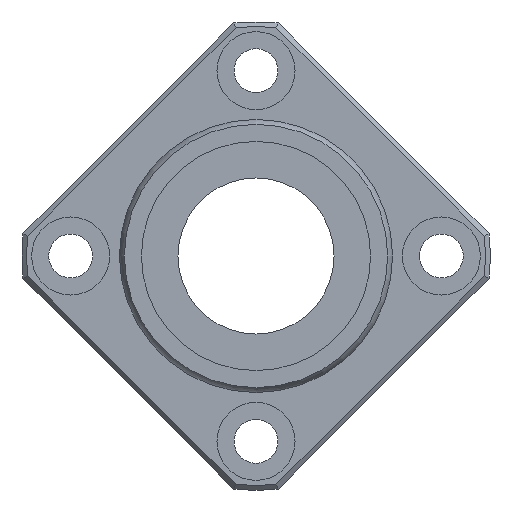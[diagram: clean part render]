
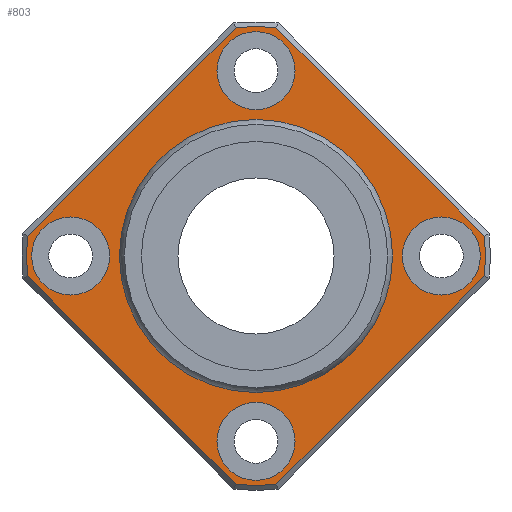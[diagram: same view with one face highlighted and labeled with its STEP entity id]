
A CAD part, left-side view. The second image highlights one B-rep face of the part: STEP entity #803.
In plain terms, the highlighted planar face has unit normal (-1, 0, 0).
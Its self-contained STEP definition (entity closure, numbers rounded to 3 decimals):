
#498=CARTESIAN_POINT('',(36.5,-2.045,-23.411));
#499=VERTEX_POINT('',#498);
#507=CARTESIAN_POINT('',(36.5,2.045,-23.411));
#508=VERTEX_POINT('',#507);
#509=CARTESIAN_POINT('',(36.5,0.0,0.0));
#510=DIRECTION('',(1.0,0.0,0.0));
#511=DIRECTION('',(0.0,0.0,-1.0));
#512=AXIS2_PLACEMENT_3D('',#509,#510,#511);
#513=CIRCLE('',#512,23.5);
#514=EDGE_CURVE('',#499,#508,#513,.T.);
#540=CARTESIAN_POINT('',(36.5,23.411,-2.045));
#541=VERTEX_POINT('',#540);
#542=CARTESIAN_POINT('',(36.5,2.045,-23.411));
#543=DIRECTION('',(0.0,0.707,0.707));
#544=VECTOR('',#543,30.216);
#545=LINE('',#542,#544);
#546=EDGE_CURVE('',#508,#541,#545,.T.);
#573=CARTESIAN_POINT('',(36.5,23.411,2.045));
#574=VERTEX_POINT('',#573);
#575=CARTESIAN_POINT('',(36.5,0.0,0.0));
#576=DIRECTION('',(1.0,0.0,0.0));
#577=DIRECTION('',(0.0,0.0,1.0));
#578=AXIS2_PLACEMENT_3D('',#575,#576,#577);
#579=CIRCLE('',#578,23.5);
#580=EDGE_CURVE('',#541,#574,#579,.T.);
#604=CARTESIAN_POINT('',(36.5,2.045,23.411));
#605=VERTEX_POINT('',#604);
#606=CARTESIAN_POINT('',(36.5,23.411,2.045));
#607=DIRECTION('',(0.0,-0.707,0.707));
#608=VECTOR('',#607,30.216);
#609=LINE('',#606,#608);
#610=EDGE_CURVE('',#574,#605,#609,.T.);
#629=CARTESIAN_POINT('',(36.5,-2.045,23.411));
#630=VERTEX_POINT('',#629);
#631=CARTESIAN_POINT('',(36.5,0.0,0.0));
#632=DIRECTION('',(1.0,0.0,0.0));
#633=DIRECTION('',(0.0,0.0,1.0));
#634=AXIS2_PLACEMENT_3D('',#631,#632,#633);
#635=CIRCLE('',#634,23.5);
#636=EDGE_CURVE('',#605,#630,#635,.T.);
#655=CARTESIAN_POINT('',(36.5,-23.411,2.045));
#656=VERTEX_POINT('',#655);
#657=CARTESIAN_POINT('',(36.5,-2.045,23.411));
#658=DIRECTION('',(0.0,-0.707,-0.707));
#659=VECTOR('',#658,30.216);
#660=LINE('',#657,#659);
#661=EDGE_CURVE('',#630,#656,#660,.T.);
#680=CARTESIAN_POINT('',(36.5,-23.411,-2.045));
#681=VERTEX_POINT('',#680);
#682=CARTESIAN_POINT('',(36.5,0.0,0.0));
#683=DIRECTION('',(1.0,0.0,0.0));
#684=DIRECTION('',(0.0,0.0,1.0));
#685=AXIS2_PLACEMENT_3D('',#682,#683,#684);
#686=CIRCLE('',#685,23.5);
#687=EDGE_CURVE('',#656,#681,#686,.T.);
#706=CARTESIAN_POINT('',(36.5,-23.411,-2.045));
#707=DIRECTION('',(0.0,0.707,-0.707));
#708=VECTOR('',#707,30.216);
#709=LINE('',#706,#708);
#710=EDGE_CURVE('',#681,#499,#709,.T.);
#733=CARTESIAN_POINT('',(36.5,0.0,18.887));
#734=DIRECTION('',(-1.0,0.0,0.0));
#735=DIRECTION('',(0.0,0.0,1.0));
#736=AXIS2_PLACEMENT_3D('',#733,#734,#735);
#737=PLANE('',#736);
#738=ORIENTED_EDGE('',*,*,#514,.F.);
#739=ORIENTED_EDGE('',*,*,#710,.F.);
#740=ORIENTED_EDGE('',*,*,#687,.F.);
#741=ORIENTED_EDGE('',*,*,#661,.F.);
#742=ORIENTED_EDGE('',*,*,#636,.F.);
#743=ORIENTED_EDGE('',*,*,#610,.F.);
#744=ORIENTED_EDGE('',*,*,#580,.F.);
#745=ORIENTED_EDGE('',*,*,#546,.F.);
#746=EDGE_LOOP('',(#738,#739,#740,#741,#742,#743,#744,#745));
#747=FACE_OUTER_BOUND('',#746,.T.);
#748=CARTESIAN_POINT('',(36.5,0.0,13.773));
#749=VERTEX_POINT('',#748);
#750=CARTESIAN_POINT('',(36.5,0.0,0.0));
#751=DIRECTION('',(-1.0,0.0,0.0));
#752=DIRECTION('',(0.0,0.0,1.0));
#753=AXIS2_PLACEMENT_3D('',#750,#751,#752);
#754=CIRCLE('',#753,13.773);
#755=EDGE_CURVE('',#749,#749,#754,.T.);
#756=ORIENTED_EDGE('',*,*,#755,.F.);
#757=EDGE_LOOP('',(#756));
#758=FACE_BOUND('',#757,.T.);
#759=CARTESIAN_POINT('',(36.5,-15.0,0.));
#760=VERTEX_POINT('',#759);
#761=CARTESIAN_POINT('',(36.5,-19.0,0.));
#762=DIRECTION('',(1.0,0.0,0.0));
#763=DIRECTION('',(0.0,1.0,0.0));
#764=AXIS2_PLACEMENT_3D('',#761,#762,#763);
#765=CIRCLE('',#764,4.0);
#766=EDGE_CURVE('',#760,#760,#765,.T.);
#767=ORIENTED_EDGE('',*,*,#766,.T.);
#768=EDGE_LOOP('',(#767));
#769=FACE_BOUND('',#768,.T.);
#770=CARTESIAN_POINT('',(36.5,23.,0.));
#771=VERTEX_POINT('',#770);
#772=CARTESIAN_POINT('',(36.5,19.0,0.));
#773=DIRECTION('',(1.0,0.0,0.0));
#774=DIRECTION('',(0.0,1.0,0.0));
#775=AXIS2_PLACEMENT_3D('',#772,#773,#774);
#776=CIRCLE('',#775,4.0);
#777=EDGE_CURVE('',#771,#771,#776,.T.);
#778=ORIENTED_EDGE('',*,*,#777,.T.);
#779=EDGE_LOOP('',(#778));
#780=FACE_BOUND('',#779,.T.);
#781=CARTESIAN_POINT('',(36.5,4.,19.0));
#782=VERTEX_POINT('',#781);
#783=CARTESIAN_POINT('',(36.5,0.,19.0));
#784=DIRECTION('',(1.0,0.0,0.0));
#785=DIRECTION('',(0.0,1.0,0.0));
#786=AXIS2_PLACEMENT_3D('',#783,#784,#785);
#787=CIRCLE('',#786,4.0);
#788=EDGE_CURVE('',#782,#782,#787,.T.);
#789=ORIENTED_EDGE('',*,*,#788,.T.);
#790=EDGE_LOOP('',(#789));
#791=FACE_BOUND('',#790,.T.);
#792=CARTESIAN_POINT('',(36.5,4.,-19.0));
#793=VERTEX_POINT('',#792);
#794=CARTESIAN_POINT('',(36.5,0.,-19.0));
#795=DIRECTION('',(1.0,0.0,0.0));
#796=DIRECTION('',(0.0,1.0,0.0));
#797=AXIS2_PLACEMENT_3D('',#794,#795,#796);
#798=CIRCLE('',#797,4.0);
#799=EDGE_CURVE('',#793,#793,#798,.T.);
#800=ORIENTED_EDGE('',*,*,#799,.T.);
#801=EDGE_LOOP('',(#800));
#802=FACE_BOUND('',#801,.T.);
#803=ADVANCED_FACE('',(#747,#758,#769,#780,#791,#802),#737,.T.);
